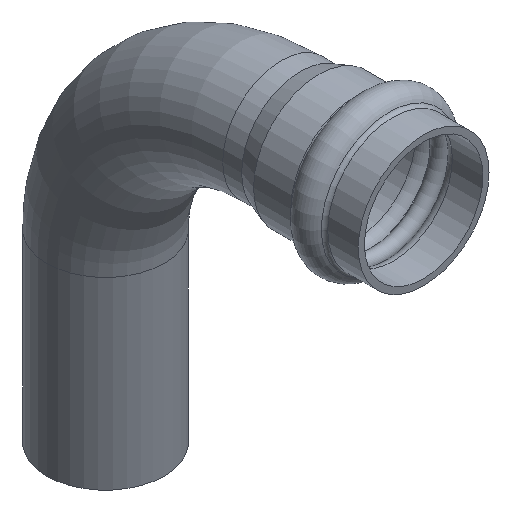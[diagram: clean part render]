
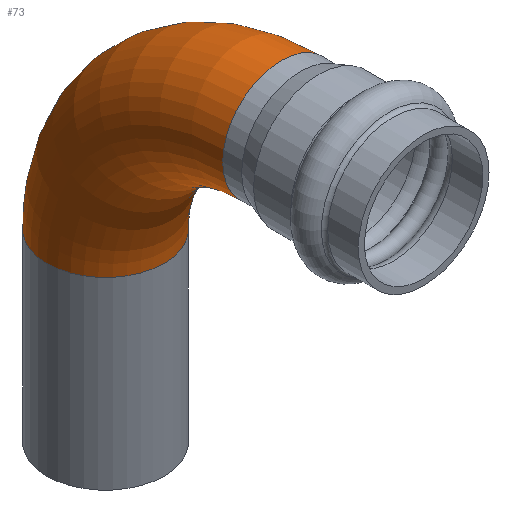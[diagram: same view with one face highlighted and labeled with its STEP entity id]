
A CAD part, isometric view. The second image highlights one B-rep face of the part: STEP entity #73.
In plain terms, the highlighted toroidal (fillet/blend) face has major radius 42 mm and minor radius 14 mm.
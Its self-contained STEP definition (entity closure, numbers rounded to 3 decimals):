
#73=ADVANCED_FACE('',(#254,#256),#258,.T.);
#254=FACE_BOUND('',#255,.T.);
#255=EDGE_LOOP('',(#310,#311));
#256=FACE_OUTER_BOUND('',#257,.T.);
#257=EDGE_LOOP('',(#312));
#258=TOROIDAL_SURFACE('',#259,42.,14.);
#259=AXIS2_PLACEMENT_3D('',#260,#261,#262);
#260=CARTESIAN_POINT('',(0.,34.,-42.));
#261=DIRECTION('',(-1.,0.,0.));
#262=DIRECTION('',(0.,0.,1.));
#310=ORIENTED_EDGE('',*,*,#337,.T.);
#311=ORIENTED_EDGE('',*,*,#336,.T.);
#312=ORIENTED_EDGE('',*,*,#335,.F.);
#335=EDGE_CURVE('',#382,#382,#383,.T.);
#336=EDGE_CURVE('',#384,#385,#386,.T.);
#337=EDGE_CURVE('',#385,#384,#387,.T.);
#382=VERTEX_POINT('',#498);
#383=CIRCLE('',#499,14.);
#384=VERTEX_POINT('',#503);
#385=VERTEX_POINT('',#504);
#386=CIRCLE('',#505,14.);
#387=CIRCLE('',#509,14.);
#498=CARTESIAN_POINT('',(-14.,76.,-42.));
#499=AXIS2_PLACEMENT_3D('',#500,#501,#502);
#500=CARTESIAN_POINT('',(0.,76.,-42.));
#501=DIRECTION('',(0.,0.,-1.));
#502=DIRECTION('',(-1.,0.,0.));
#503=CARTESIAN_POINT('',(-14.,34.,0.));
#504=CARTESIAN_POINT('',(0.,34.,14.));
#505=AXIS2_PLACEMENT_3D('',#506,#507,#508);
#506=CARTESIAN_POINT('',(0.,34.,0.));
#507=DIRECTION('',(0.,1.,0.));
#508=DIRECTION('',(-1.,0.,0.));
#509=AXIS2_PLACEMENT_3D('',#510,#511,#512);
#510=CARTESIAN_POINT('',(0.,34.,0.));
#511=DIRECTION('',(0.,1.,0.));
#512=DIRECTION('',(0.,0.,1.));
